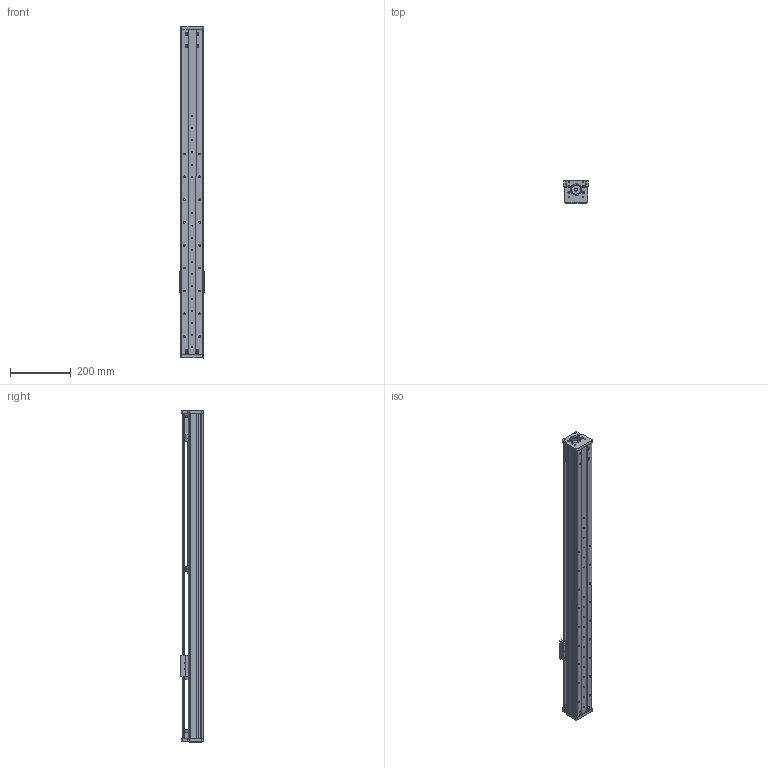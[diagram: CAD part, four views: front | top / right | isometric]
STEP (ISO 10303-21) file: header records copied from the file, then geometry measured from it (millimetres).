
FILE_DESCRIPTION (( 'STEP AP203' ), '1' );
FILE_NAME ('CF75-P850.STEP', '2016-02-22T03:16:35', ( 'Sky123.Org' ), ( 'Sky123.Org' ), 'SwSTEP 2.0', 'SolidWorks 2015', '' );
FILE_SCHEMA (( 'CONFIG_CONTROL_DESIGN' ));
Length unit declared in the file: millimetre
Products named in the file (17): 75盓厥釱; 75裔啣; angular contact ball bearings gb_Rolling bearings S7001 GB 292-94; SFU1616幗紩佪裝; 坶踡蹟譫M12-1; CF75-300俴最臏倰第; 75賑雄啣; MGW12H絳寢-俴最300; CF75-P850; 30-42薊粣ん; MGW12賑輸; 75-57祭輛萇儂假蚾啣; SFU1605-3; 75嘐隅釱; 75粣創裔啣; 75支持侧板（2016.01.24改进）; 75滅袉蝶菜
Assembly tree (20 placements, depth 2):
  CF75-P850
    MGW12賑輸
    SFU1605-3
    75粣創裔啣
    75滅袉蝶菜  x2
    75裔啣
    SFU1616幗紩佪裝
    CF75-300俴最臏倰第
    MGW12H絳寢-俴最300
    30-42薊粣ん
    75-57祭輛萇儂假蚾啣
    75嘐隅釱
    75支持侧板（2016.01.24改进）
    75盓厥釱
    angular contact ball bearings gb_Rolling bearings S7001 GB 292-94  x4
    坶踡蹟譫M12-1
    75賑雄啣
Bounding box: 82.03 x 73.93 x 1090.03 mm (x, y, z)
Volume: 2161059.6 mm3; surface area: 791470 mm2
Topology: 20 solids, 20 shells, 1541 faces, 4945 edges, 3297 vertices
Faces by surface type: cylinder 709, plane 505, torus 212, sphere 112, bspline 3
Entity records: 54756 total; most frequent: CARTESIAN_POINT 21219, ORIENTED_EDGE 6830, DIRECTION 6539, EDGE_CURVE 3415, AXIS2_PLACEMENT_3D 2516, VERTEX_POINT 2262, EDGE_LOOP 1515, VECTOR 1507
